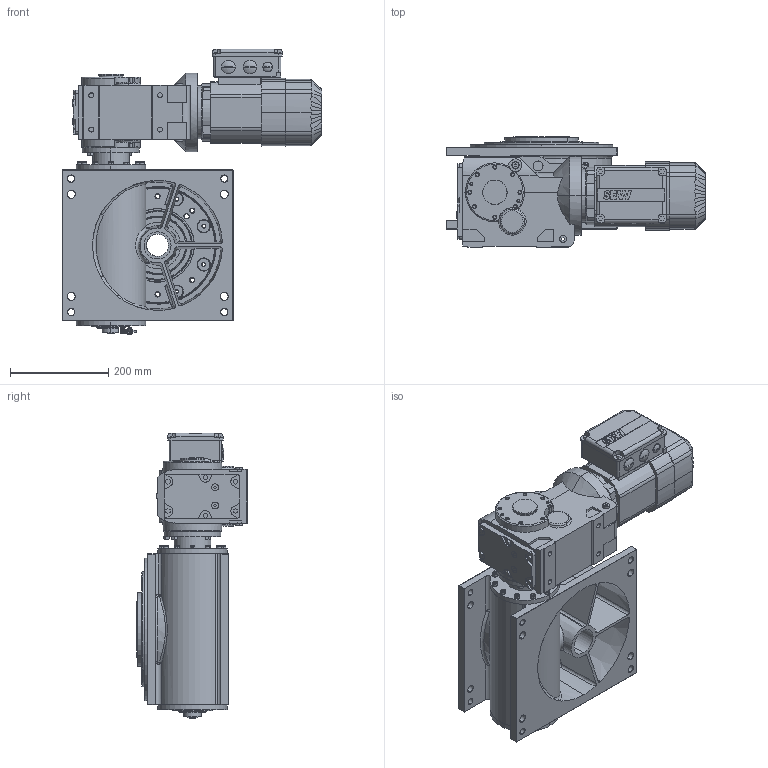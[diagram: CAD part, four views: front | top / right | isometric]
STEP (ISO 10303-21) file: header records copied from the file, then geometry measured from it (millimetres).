
FILE_DESCRIPTION (( 'STEP AP214' ), '1' );
FILE_NAME ('M235_SEW_KA47DRS71S4BE05_D1_08.STEP', '2020-06-17T05:27:39', ( '' ), ( '' ), 'SwSTEP 2.0', 'SolidWorks 2020', '' );
FILE_SCHEMA (( 'AUTOMOTIVE_DESIGN' ));
Length unit declared in the file: millimetre
Products named in the file (1): M235_SEW_KA47DRS71S4BE05_D1_08
Bounding box: 528.5 x 226 x 582.46 mm (x, y, z)
Surface area: 1123479.7 mm2 (no closed solid volume)
Topology: 0 solids, 92 shells, 1634 faces, 4900 edges, 3268 vertices
Faces by surface type: plane 628, cylinder 493, cone 264, bspline 140, torus 87, sphere 22
Entity records: 86436 total; most frequent: CARTESIAN_POINT 25285, DIRECTION 9108, ORIENTED_EDGE 8376, EDGE_CURVE 4848, AXIS2_PLACEMENT_3D 3350, VERTEX_POINT 3268, LINE 2408, VECTOR 2408
